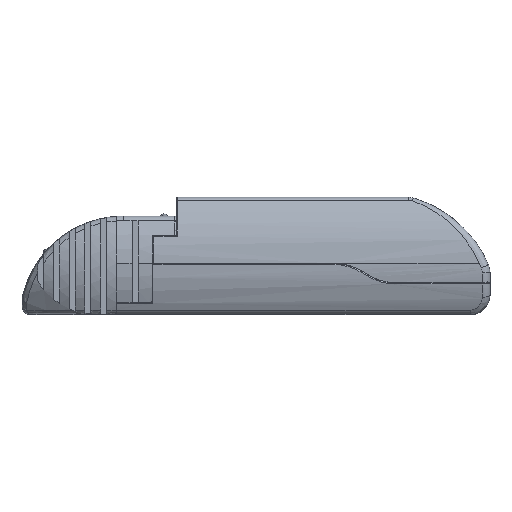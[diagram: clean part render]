
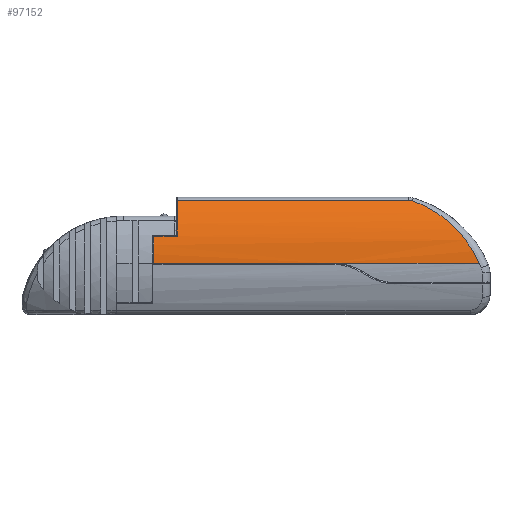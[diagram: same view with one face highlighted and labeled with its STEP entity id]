
A CAD part, top view. The second image highlights one B-rep face of the part: STEP entity #97152.
In plain terms, the highlighted cylindrical face has radius 26.4 mm (diameter 52.8 mm), a partial arc.
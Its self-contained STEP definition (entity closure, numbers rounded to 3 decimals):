
#11364 = EDGE_CURVE ( 'NONE', #85930, #85958, #27799, .T. ) ;
#11408 = EDGE_CURVE ( 'NONE', #85958, #106336, #27837, .T. ) ;
#11538 = EDGE_CURVE ( 'NONE', #85930, #106434, #57694, .T. ) ;
#11539 = EDGE_CURVE ( 'NONE', #106434, #106452, #57696, .T. ) ;
#11540 = EDGE_CURVE ( 'NONE', #106452, #106453, #28033, .T. ) ;
#11541 = EDGE_CURVE ( 'NONE', #106453, #106454, #28031, .T. ) ;
#11542 = EDGE_CURVE ( 'NONE', #106454, #106455, #28035, .T. ) ;
#11544 = EDGE_CURVE ( 'NONE', #106455, #106336, #28036, .T. ) ;
#27799 = LINE ( 'NONE', #29124, #27801 ) ;
#27801 = VECTOR ( 'NONE', #29126, 1000. ) ;
#27837 = LINE ( 'NONE', #71908, #27840 ) ;
#27840 = VECTOR ( 'NONE', #71911, 1000. ) ;
#28006 = VECTOR ( 'NONE', #73174, 1000. ) ;
#28031 = CIRCLE ( 'NONE', #73603, 26.4 ) ;
#28033 = LINE ( 'NONE', #73159, #28006 ) ;
#28035 = LINE ( 'NONE', #73105, #28037 ) ;
#28036 = CIRCLE ( 'NONE', #73607, 26.4 ) ;
#28037 = VECTOR ( 'NONE', #73103, 1000. ) ;
#29124 = CARTESIAN_POINT ( 'NONE',  ( 43.927, 15.544, 26.4 ) ) ;
#29126 = DIRECTION ( 'NONE',  ( -1., 0., 0. ) ) ;
#48633 = AXIS2_PLACEMENT_3D ( 'NONE', #63241, #63230, #63249 ) ;
#57694 = B_SPLINE_CURVE_WITH_KNOTS ( 'NONE', 3,
 ( #73071, #73076, #73108, #73112, #73116, #73120, #73122, #73125, #73128, #73131, #73133, #73137, #73141, #73145, #73148, #73151 ),
 .UNSPECIFIED., .F., .F.,
 ( 4, 2, 2, 2, 2, 2, 2, 4 ),
 ( 0.001, 0.007, 0.009, 0.01, 0.014, 0.017, 0.02, 0.026 ),
 .UNSPECIFIED. ) ;
#57696 = B_SPLINE_CURVE_WITH_KNOTS ( 'NONE', 3,
 ( #73155, #73099, #73163, #73167 ),
 .UNSPECIFIED., .F., .F.,
 ( 4, 4 ),
 ( 0., 0.001 ),
 .UNSPECIFIED. ) ;
#63230 = DIRECTION ( 'NONE',  ( -1., 0., 0. ) ) ;
#63241 = CARTESIAN_POINT ( 'NONE',  ( 43.927, 15.544, 0. ) ) ;
#63249 = DIRECTION ( 'NONE',  ( 0., 0., 1. ) ) ;
#64927 = FACE_OUTER_BOUND ( 'NONE', #107643, .T. ) ;
#64954 = CYLINDRICAL_SURFACE ( 'NONE', #48633, 26.4 ) ;
#71908 = CARTESIAN_POINT ( 'NONE',  ( -51.073, 15.544, 26.4 ) ) ;
#71911 = DIRECTION ( 'NONE',  ( -1., 0., 0. ) ) ;
#73071 = CARTESIAN_POINT ( 'NONE',  ( 41.188, 15.544, 26.4 ) ) ;
#73076 = CARTESIAN_POINT ( 'NONE',  ( 40.352, 17.428, 26.4 ) ) ;
#73099 = CARTESIAN_POINT ( 'NONE',  ( 23.812, 31.509, 21.026 ) ) ;
#73103 = DIRECTION ( 'NONE',  ( -1., 0., 0. ) ) ;
#73105 = CARTESIAN_POINT ( 'NONE',  ( 43.927, 22.396, 25.495 ) ) ;
#73108 = CARTESIAN_POINT ( 'NONE',  ( 39.347, 19.198, 26.201 ) ) ;
#73112 = CARTESIAN_POINT ( 'NONE',  ( 37.878, 21.273, 25.774 ) ) ;
#73116 = CARTESIAN_POINT ( 'NONE',  ( 37.572, 21.682, 25.68 ) ) ;
#73120 = CARTESIAN_POINT ( 'NONE',  ( 36.944, 22.48, 25.476 ) ) ;
#73122 = CARTESIAN_POINT ( 'NONE',  ( 36.622, 22.868, 25.367 ) ) ;
#73125 = CARTESIAN_POINT ( 'NONE',  ( 35.631, 24.001, 25.021 ) ) ;
#73128 = CARTESIAN_POINT ( 'NONE',  ( 34.939, 24.715, 24.766 ) ) ;
#73131 = CARTESIAN_POINT ( 'NONE',  ( 33.49, 26.066, 24.224 ) ) ;
#73133 = CARTESIAN_POINT ( 'NONE',  ( 32.732, 26.702, 23.935 ) ) ;
#73137 = CARTESIAN_POINT ( 'NONE',  ( 31.145, 27.896, 23.342 ) ) ;
#73141 = CARTESIAN_POINT ( 'NONE',  ( 30.327, 28.446, 23.04 ) ) ;
#73145 = CARTESIAN_POINT ( 'NONE',  ( 27.798, 29.958, 22.149 ) ) ;
#73148 = CARTESIAN_POINT ( 'NONE',  ( 26.012, 30.785, 21.571 ) ) ;
#73151 = CARTESIAN_POINT ( 'NONE',  ( 24.091, 31.417, 21.095 ) ) ;
#73155 = CARTESIAN_POINT ( 'NONE',  ( 24.091, 31.417, 21.095 ) ) ;
#73159 = CARTESIAN_POINT ( 'NONE',  ( 43.927, 31.557, 20.989 ) ) ;
#73163 = CARTESIAN_POINT ( 'NONE',  ( 23.521, 31.557, 20.989 ) ) ;
#73167 = CARTESIAN_POINT ( 'NONE',  ( 23.219, 31.557, 20.989 ) ) ;
#73174 = DIRECTION ( 'NONE',  ( -1., 0., 0. ) ) ;
#73189 = CARTESIAN_POINT ( 'NONE',  ( -35.573, 15.544, 0. ) ) ;
#73192 = DIRECTION ( 'NONE',  ( 1., 0., 0. ) ) ;
#73194 = DIRECTION ( 'NONE',  ( 0., 0., -1. ) ) ;
#73211 = CARTESIAN_POINT ( 'NONE',  ( -41.573, 15.544, 0. ) ) ;
#73215 = DIRECTION ( 'NONE',  ( 1., 0., 0. ) ) ;
#73217 = DIRECTION ( 'NONE',  ( 0., 0., -1. ) ) ;
#73603 = AXIS2_PLACEMENT_3D ( 'NONE', #73189, #73192, #73194 ) ;
#73607 = AXIS2_PLACEMENT_3D ( 'NONE', #73211, #73215, #73217 ) ;
#77736 = CARTESIAN_POINT ( 'NONE',  ( 41.188, 15.544, 26.4 ) ) ;
#77755 = CARTESIAN_POINT ( 'NONE',  ( 3.927, 15.544, 26.4 ) ) ;
#85930 = VERTEX_POINT ( 'NONE', #77736 ) ;
#85958 = VERTEX_POINT ( 'NONE', #77755 ) ;
#95276 = CARTESIAN_POINT ( 'NONE',  ( -41.573, 15.544, 26.4 ) ) ;
#95364 = CARTESIAN_POINT ( 'NONE',  ( 24.091, 31.417, 21.095 ) ) ;
#95382 = CARTESIAN_POINT ( 'NONE',  ( 23.219, 31.557, 20.989 ) ) ;
#95383 = CARTESIAN_POINT ( 'NONE',  ( -35.573, 31.557, 20.989 ) ) ;
#95384 = CARTESIAN_POINT ( 'NONE',  ( -35.573, 22.396, 25.495 ) ) ;
#95385 = CARTESIAN_POINT ( 'NONE',  ( -41.573, 22.396, 25.495 ) ) ;
#97152 = ADVANCED_FACE ( 'NONE', ( #64927 ), #64954, .T. ) ;
#99902 = ORIENTED_EDGE ( 'NONE', *, *, #11364, .F. ) ;
#99908 = ORIENTED_EDGE ( 'NONE', *, *, #11538, .T. ) ;
#99914 = ORIENTED_EDGE ( 'NONE', *, *, #11539, .T. ) ;
#99919 = ORIENTED_EDGE ( 'NONE', *, *, #11540, .T. ) ;
#99925 = ORIENTED_EDGE ( 'NONE', *, *, #11541, .T. ) ;
#99930 = ORIENTED_EDGE ( 'NONE', *, *, #11542, .T. ) ;
#99936 = ORIENTED_EDGE ( 'NONE', *, *, #11544, .T. ) ;
#99941 = ORIENTED_EDGE ( 'NONE', *, *, #11408, .F. ) ;
#106336 = VERTEX_POINT ( 'NONE', #95276 ) ;
#106434 = VERTEX_POINT ( 'NONE', #95364 ) ;
#106452 = VERTEX_POINT ( 'NONE', #95382 ) ;
#106453 = VERTEX_POINT ( 'NONE', #95383 ) ;
#106454 = VERTEX_POINT ( 'NONE', #95384 ) ;
#106455 = VERTEX_POINT ( 'NONE', #95385 ) ;
#107643 = EDGE_LOOP ( 'NONE', ( #99902, #99908, #99914, #99919, #99925, #99930, #99936, #99941 ) ) ;
